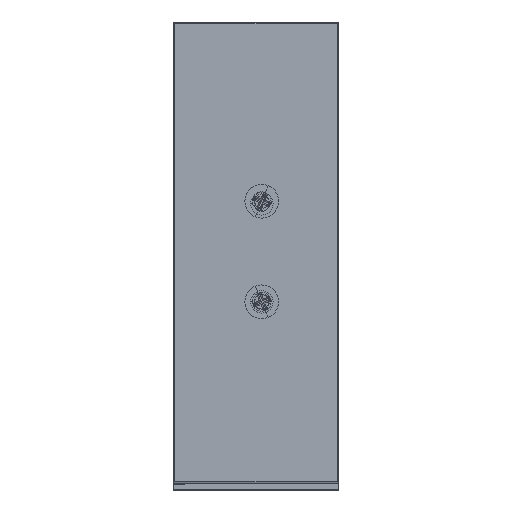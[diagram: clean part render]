
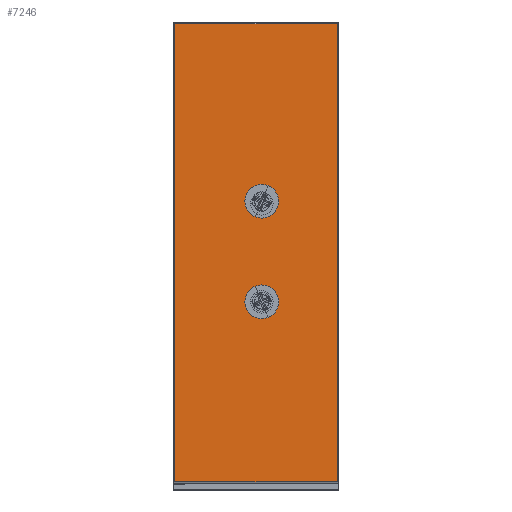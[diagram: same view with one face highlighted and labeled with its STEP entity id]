
A CAD part, top view. The second image highlights one B-rep face of the part: STEP entity #7246.
In plain terms, the highlighted planar face has unit normal (0, 0, 1).
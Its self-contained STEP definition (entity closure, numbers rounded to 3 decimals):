
#53 = EDGE_CURVE ( 'NONE', #10003, #552, #276, .T. ) ;
#276 = LINE ( 'NONE', #9575, #21153 ) ;
#552 = VERTEX_POINT ( 'NONE', #23266 ) ;
#1068 = CIRCLE ( 'NONE', #18182, 1.268 ) ;
#1069 = CARTESIAN_POINT ( 'NONE',  ( -45.514, -22.184, 202. ) ) ;
#1426 = CARTESIAN_POINT ( 'NONE',  ( -46.782, -22.184, 202. ) ) ;
#1450 = ORIENTED_EDGE ( 'NONE', *, *, #25064, .T. ) ;
#1577 = CARTESIAN_POINT ( 'NONE',  ( -45.507, -11.142, 202. ) ) ;
#1782 = CARTESIAN_POINT ( 'NONE',  ( -56.575, 9.131, 202. ) ) ;
#1937 = VERTEX_POINT ( 'NONE', #5130 ) ;
#2283 = CIRCLE ( 'NONE', #23730, 1.268 ) ;
#3382 = LINE ( 'NONE', #28462, #20204 ) ;
#4034 = CARTESIAN_POINT ( 'NONE',  ( -46.782, -22.184, 202. ) ) ;
#4148 = EDGE_LOOP ( 'NONE', ( #19244, #24427, #4405, #1450 ) ) ;
#4281 = EDGE_LOOP ( 'NONE', ( #5289, #10482 ) ) ;
#4362 = EDGE_LOOP ( 'NONE', ( #14580, #15483 ) ) ;
#4405 = ORIENTED_EDGE ( 'NONE', *, *, #15601, .T. ) ;
#4693 = VECTOR ( 'NONE', #17714, 1000. ) ;
#5130 = CARTESIAN_POINT ( 'NONE',  ( -38.285, 9.131, 202. ) ) ;
#5187 = VERTEX_POINT ( 'NONE', #1069 ) ;
#5289 = ORIENTED_EDGE ( 'NONE', *, *, #11417, .T. ) ;
#6440 = CARTESIAN_POINT ( 'NONE',  ( -56.775, 9.131, 202. ) ) ;
#7227 = CARTESIAN_POINT ( 'NONE',  ( -56.575, -42.469, 202. ) ) ;
#7246 = ADVANCED_FACE ( 'NONE', ( #27083, #22629, #10711 ), #12852, .T. ) ;
#7306 = DIRECTION ( 'NONE',  ( 1., 0., 0. ) ) ;
#8081 = DIRECTION ( 'NONE',  ( 1., 0., 0. ) ) ;
#8171 = EDGE_CURVE ( 'NONE', #18041, #10003, #3382, .T. ) ;
#9186 = DIRECTION ( 'NONE',  ( 0., 0., 1. ) ) ;
#9575 = CARTESIAN_POINT ( 'NONE',  ( -38.085, -42.469, 202. ) ) ;
#10003 = VERTEX_POINT ( 'NONE', #7227 ) ;
#10482 = ORIENTED_EDGE ( 'NONE', *, *, #26677, .T. ) ;
#10590 = DIRECTION ( 'NONE',  ( 0., 0., -1. ) ) ;
#10711 = FACE_OUTER_BOUND ( 'NONE', #4148, .T. ) ;
#11417 = EDGE_CURVE ( 'NONE', #5187, #25190, #2283, .T. ) ;
#12043 = EDGE_CURVE ( 'NONE', #25802, #17223, #17610, .T. ) ;
#12255 = CARTESIAN_POINT ( 'NONE',  ( -46.775, -11.142, 202. ) ) ;
#12402 = LINE ( 'NONE', #6440, #26801 ) ;
#12823 = AXIS2_PLACEMENT_3D ( 'NONE', #16368, #9186, #20660 ) ;
#12852 = PLANE ( 'NONE',  #12823 ) ;
#13071 = LINE ( 'NONE', #19701, #4693 ) ;
#13337 = DIRECTION ( 'NONE',  ( 1., 0., 0. ) ) ;
#13716 = EDGE_CURVE ( 'NONE', #17223, #25802, #1068, .T. ) ;
#14580 = ORIENTED_EDGE ( 'NONE', *, *, #12043, .T. ) ;
#14873 = DIRECTION ( 'NONE',  ( 1., 0., 0. ) ) ;
#15483 = ORIENTED_EDGE ( 'NONE', *, *, #13716, .T. ) ;
#15601 = EDGE_CURVE ( 'NONE', #552, #1937, #13071, .T. ) ;
#16368 = CARTESIAN_POINT ( 'NONE',  ( -47.43, -16.669, 202. ) ) ;
#17223 = VERTEX_POINT ( 'NONE', #19411 ) ;
#17610 = CIRCLE ( 'NONE', #21468, 1.268 ) ;
#17714 = DIRECTION ( 'NONE',  ( 0., 1., 0. ) ) ;
#18041 = VERTEX_POINT ( 'NONE', #1782 ) ;
#18182 = AXIS2_PLACEMENT_3D ( 'NONE', #12255, #19505, #14873 ) ;
#19244 = ORIENTED_EDGE ( 'NONE', *, *, #8171, .T. ) ;
#19411 = CARTESIAN_POINT ( 'NONE',  ( -48.042, -11.142, 202. ) ) ;
#19505 = DIRECTION ( 'NONE',  ( 0., 0., -1. ) ) ;
#19611 = DIRECTION ( 'NONE',  ( 0., -1., 0. ) ) ;
#19701 = CARTESIAN_POINT ( 'NONE',  ( -38.285, 9.331, 202. ) ) ;
#20079 = DIRECTION ( 'NONE',  ( 1., 0., 0. ) ) ;
#20204 = VECTOR ( 'NONE', #19611, 1000. ) ;
#20660 = DIRECTION ( 'NONE',  ( 1., 0., 0. ) ) ;
#21153 = VECTOR ( 'NONE', #7306, 1000. ) ;
#21468 = AXIS2_PLACEMENT_3D ( 'NONE', #27173, #21838, #8081 ) ;
#21760 = DIRECTION ( 'NONE',  ( -1., 0., 0. ) ) ;
#21834 = CARTESIAN_POINT ( 'NONE',  ( -48.049, -22.184, 202. ) ) ;
#21838 = DIRECTION ( 'NONE',  ( 0., 0., -1. ) ) ;
#22226 = DIRECTION ( 'NONE',  ( 0., 0., -1. ) ) ;
#22576 = CIRCLE ( 'NONE', #28963, 1.268 ) ;
#22629 = FACE_BOUND ( 'NONE', #4362, .T. ) ;
#23266 = CARTESIAN_POINT ( 'NONE',  ( -38.285, -42.469, 202. ) ) ;
#23730 = AXIS2_PLACEMENT_3D ( 'NONE', #1426, #10590, #20079 ) ;
#24427 = ORIENTED_EDGE ( 'NONE', *, *, #53, .T. ) ;
#25064 = EDGE_CURVE ( 'NONE', #1937, #18041, #12402, .T. ) ;
#25190 = VERTEX_POINT ( 'NONE', #21834 ) ;
#25802 = VERTEX_POINT ( 'NONE', #1577 ) ;
#26677 = EDGE_CURVE ( 'NONE', #25190, #5187, #22576, .T. ) ;
#26801 = VECTOR ( 'NONE', #21760, 1000. ) ;
#27083 = FACE_BOUND ( 'NONE', #4281, .T. ) ;
#27173 = CARTESIAN_POINT ( 'NONE',  ( -46.775, -11.142, 202. ) ) ;
#28462 = CARTESIAN_POINT ( 'NONE',  ( -56.575, -42.669, 202. ) ) ;
#28963 = AXIS2_PLACEMENT_3D ( 'NONE', #4034, #22226, #13337 ) ;
